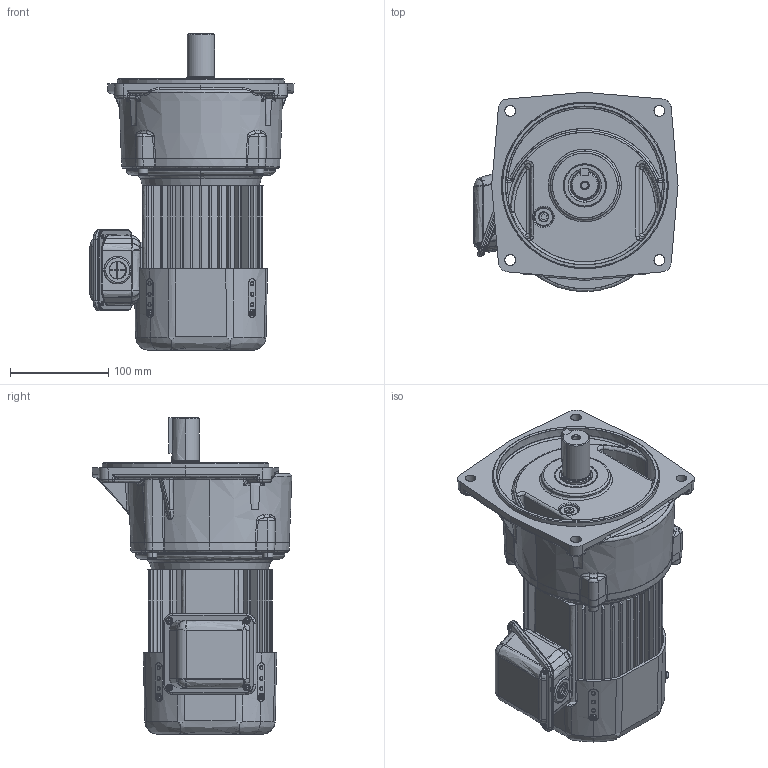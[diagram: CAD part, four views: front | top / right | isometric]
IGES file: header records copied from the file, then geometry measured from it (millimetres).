
Start section: SolidWorks IGES file using analytic representation for surfaces
Global section: file name: \\100.100.100.8\1_共有作業フォルダ\1-5_３Ｄデータ\solidworks\personal-folder\H.Nagayama\SGP1外形\P1(3D)\igs\TMFB2-02-(100~200).IGS; native system: SolidWorks 2018; preprocessor: SolidWorks 2018; author: sigma-giken; date: 200508.142239; units: millimetre
Bounding box: 208 x 203.34 x 322.6 mm (x, y, z)
Surface area: 478225.5 mm2 (no closed solid volume)
Topology: 0 solids, 0 shells, 1784 faces, 22737 edges, 22708 vertices
Faces by surface type: bspline 983, revolution 801
